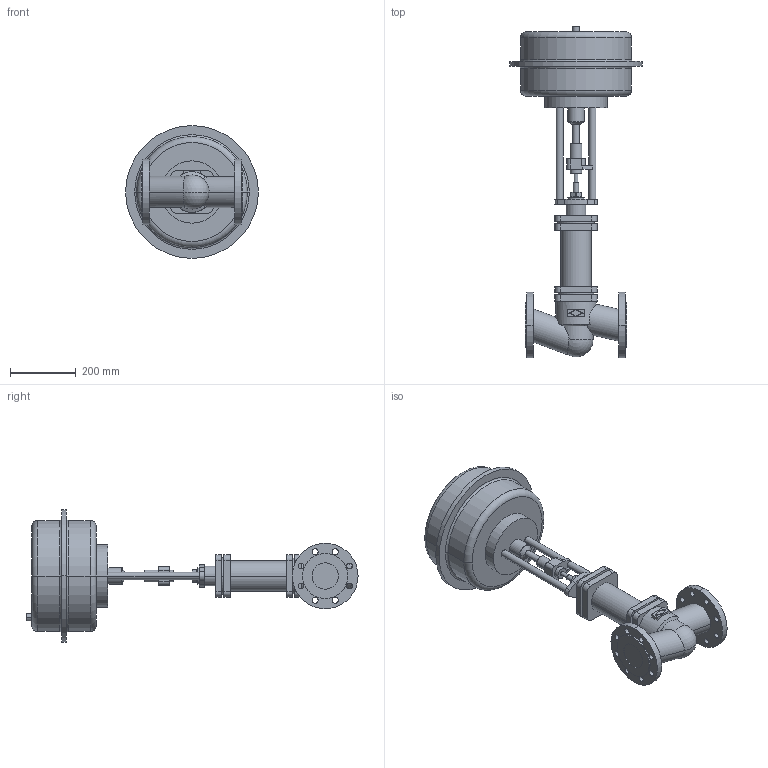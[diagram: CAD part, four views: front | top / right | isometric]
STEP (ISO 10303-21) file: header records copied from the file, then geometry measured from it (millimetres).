
FILE_DESCRIPTION(('OneSpaceDesigner STEP Export'),'2;1');
FILE_NAME('c000002084.stp','2005-12-12T11:27:07',(''),(''),'OneSpace Designer STEP processor for AP203 (Solid Model)','OneSpace Designer 13.20A 18-Aug-2005 (C) CoCreate Software GmbH','');
FILE_SCHEMA(('CONFIG_CONTROL_DESIGN'));
Length unit declared in the file: millimetre
Products named in the file (1): 1
Bounding box: 405 x 1012.7 x 405 mm (x, y, z)
Volume: 26393593.4 mm3; surface area: 972683.3 mm2
Topology: 1 solids, 1 shells, 221 faces, 551 edges, 362 vertices
Faces by surface type: cylinder 120, plane 85, torus 10, cone 4, sphere 2
Entity records: 6351 total; most frequent: CARTESIAN_POINT 1279, ORIENTED_EDGE 1098, DIRECTION 947, EDGE_CURVE 549, VERTEX_POINT 362, AXIS2_PLACEMENT_3D 339, EDGE_LOOP 289, VECTOR 269
